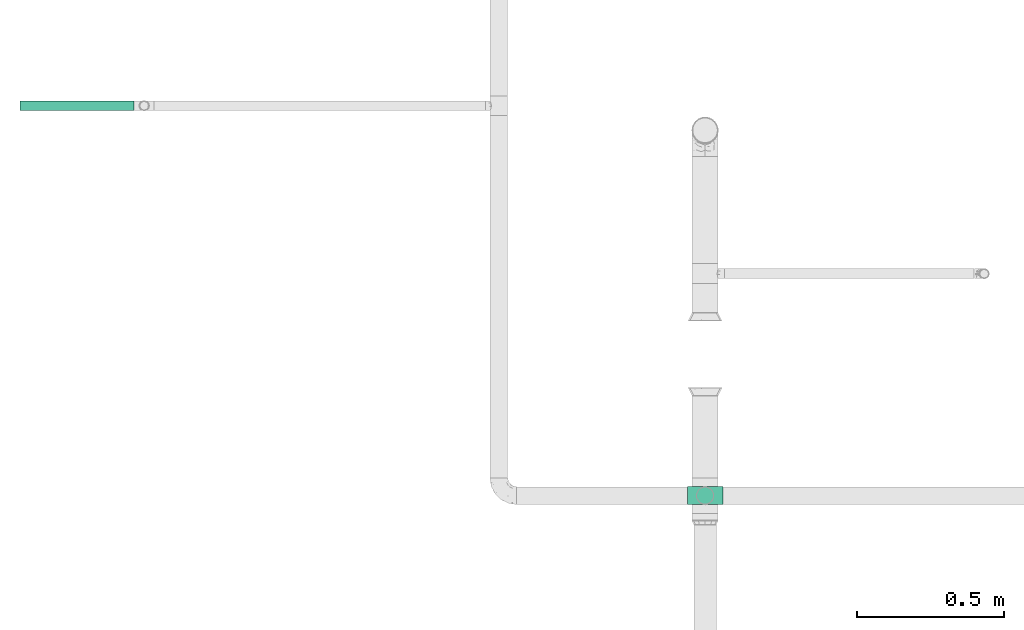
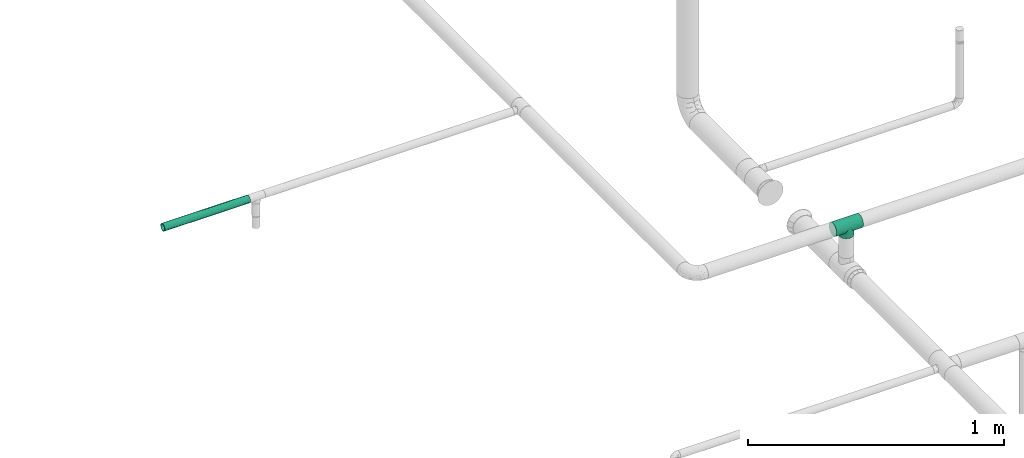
# One storey, part 40 of 45: 1 flow fitting, 1 flow segment.
"""IFC2X3 building model written with IfcOpenShell, lengths in millimetres."""

from ifc_helpers import new_model, entity, si_unit, converted_unit, derived_unit, direction, frame, origin_with_axes, place, context, subcontext, project, spatial, open_shell, faceted_brep, surface_model, source, transform, mapped, type_object, element, save


model = new_model("IFC2X3")

# Units and contexts
model_context = context("Model", 3, precision=0.01, world=frame((0.0, 4.29681676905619e-09, 0.0)), true_north=direction((4.01073788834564e-13, 1.0)))
plan_context = context("Plan", 3, precision=0.01, world=frame((0.0, 4.29681676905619e-09, 0.0)), true_north=direction((4.01073788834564e-13, 1.0)))
body_context = subcontext(model_context, "Body", "Model", "MODEL_VIEW")
ifc_project = project(units=[converted_unit("PLANEANGLEUNIT", "DEGREE", entity("IfcPositiveLengthMeasure", 0.0174532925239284), si_unit("PLANEANGLEUNIT", "RADIAN"), dimensions=[0, 0, 0, 0, 0, 0, 0]), si_unit("AREAUNIT", "SQUARE_METRE"), si_unit("LENGTHUNIT", "METRE", prefix="MILLI"), si_unit("MASSUNIT", "GRAM", prefix="KILO"), si_unit("POWERUNIT", "WATT"), si_unit("PRESSUREUNIT", "PASCAL", prefix="KILO"), si_unit("FORCEUNIT", "NEWTON", prefix="KILO"), si_unit("ELECTRICVOLTAGEUNIT", "VOLT"), si_unit("ELECTRICCURRENTUNIT", "AMPERE"), si_unit("THERMODYNAMICTEMPERATUREUNIT", "DEGREE_CELSIUS"), si_unit("TIMEUNIT", "SECOND"), si_unit("VOLUMEUNIT", "CUBIC_METRE"), derived_unit("LINEARVELOCITYUNIT", [(si_unit("LENGTHUNIT", "METRE"), 1), (si_unit("TIMEUNIT", "SECOND"), -1)]), derived_unit("VOLUMETRICFLOWRATEUNIT", [(si_unit("VOLUMEUNIT", "CUBIC_METRE"), 1), (si_unit("TIMEUNIT", "SECOND"), -1)]), derived_unit("THERMALTRANSMITTANCEUNIT", [(si_unit("POWERUNIT", "WATT"), 1), (si_unit("THERMODYNAMICTEMPERATUREUNIT", "KELVIN"), -1), (si_unit("AREAUNIT", "SQUARE_METRE"), -1)]), derived_unit("SOUNDPRESSUREUNIT", [(si_unit("PRESSUREUNIT", "PASCAL"), 1)])], contexts=[model_context, plan_context])

# Site, building, storey
site_placement = place(None, frame((0.0, -4.29681676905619e-09, 0.0), z_axis=(0.0, 0.0, 1.0), x_axis=(1.0, 0.0, 0.0)))
site = spatial("IfcSite", under=ifc_project, at=site_placement, CompositionType="ELEMENT")
building_placement = place(site_placement, frame((0.0, 4.29681676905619e-09, 0.0), z_axis=(0.0, 0.0, 1.0), x_axis=(1.0, 0.0, 0.0)))
building = spatial("IfcBuilding", under=site, at=building_placement, Name="mc-building", CompositionType="ELEMENT")
storey_placement = place(building_placement, frame((0.0, 0.0, 210200.0), z_axis=(0.0, 0.0, 1.0), x_axis=(1.0, 0.0, 0.0)))
storey = spatial("IfcBuildingStorey", under=building, at=storey_placement, Name="Nivå F - 0,7 m", CompositionType="ELEMENT", Elevation=210200.0)

# Flow fitting
pipe_fitting_type = type_object("IfcPipeFittingType", Name="magi_pipe_fe_tee_centric_90_001", PredefinedType="JUNCTION")
shared_shape = source(origin_with_axes(), body_context, "Body", "SurfaceModel", [
    surface_model("IfcShellBasedSurfaceModel", [(-60.4, 15.1, -26.15397), (-60.4, 7.81634, -29.17096), (-60.4, 0.0, -30.2), (-60.4, 29.17096, -7.81634), (-60.4, 26.15397, -15.1), (-60.4, 21.35462, -21.35462), (-60.4, -15.1, -26.15397), (-60.4, -21.35462, -21.35462), (-60.4, -7.81634, -29.17096), (-60.4, -26.15397, -15.1), (-60.4, -29.17096, -7.81634), (-60.4, 30.2, 0.0), (-60.4, -30.2, 0.0), (-60.4, 26.15397, 15.1), (-60.4, 29.17096, 7.81634), (-60.4, 15.1, 26.15397), (-60.4, -21.35462, 21.35462), (-60.4, 21.35462, 21.35462), (-60.4, 7.81634, 29.17096), (-60.4, -29.17096, 7.81634), (-60.4, -26.15397, 15.1), (-60.4, -15.1, 26.15397), (-60.4, -7.81634, 29.17096), (-60.4, 0.0, 30.2), (60.4, 0.0, -30.2), (60.4, 7.81634, -29.17096), (60.4, 15.1, -26.15397), (60.4, 21.35462, -21.35462), (60.4, -7.81634, -29.17096), (60.4, 26.15397, -15.1), (60.4, 29.17096, -7.81634), (60.4, -21.35462, -21.35462), (60.4, -15.1, -26.15397), (60.4, -29.17096, -7.81634), (60.4, -26.15397, -15.1), (60.4, -30.2, 0.0), (60.4, 30.2, 0.0), (60.4, 29.17096, 7.81634), (60.4, 26.15397, 15.1), (60.4, -29.17096, 7.81634), (60.4, 15.1, 26.15397), (60.4, 7.81634, 29.17096), (60.4, 21.35462, 21.35462), (60.4, -21.35462, 21.35462), (60.4, -26.15397, 15.1), (60.4, -15.1, 26.15397), (60.4, 0.0, 30.2), (60.4, -7.81634, 29.17096), (29.10446, -29.10446, 8.06041), (30.2, -30.2, 0.0), (26.13799, -26.13799, 15.12764), (16.92575, -16.92575, 25.01118), (21.91401, -21.91401, 20.78019), (-30.2, -30.2, 0.0), (-29.10446, -29.10446, 8.06041), (-26.13799, -26.13799, 15.12764), (-21.91401, -21.91401, 20.78019), (-16.92575, -16.92575, 25.01118), (-11.48736, -11.48736, 27.92992), (11.48736, -11.48736, 27.92992), (5.79898, -5.79898, 29.63801), (0.0, 0.0, 30.2), (-5.79898, -5.79898, 29.63801), (5.79898, -5.79898, -29.63801), (0.0, 0.0, -30.2), (-5.79898, -5.79898, -29.63801), (-11.48736, -11.48736, -27.92992), (11.48736, -11.48736, -27.92992), (16.92575, -16.92575, -25.01118), (21.91401, -21.91401, -20.78019), (26.13799, -26.13799, -15.12764), (29.10446, -29.10446, -8.06041), (-16.92575, -16.92575, -25.01118), (-21.91401, -21.91401, -20.78019), (-29.10446, -29.10446, -8.06041), (-26.13799, -26.13799, -15.12764), (-21.35462, -45.3, -21.35462), (0.0, -45.3, -30.2), (7.81634, -45.3, -29.17096), (15.1, -45.3, -26.15397), (-30.2, -45.3, 0.0), (26.15397, -45.3, -15.1), (21.35462, -45.3, -21.35462), (26.15397, -45.3, 15.1), (-7.81634, -45.3, -29.17096), (-15.1, -45.3, -26.15397), (-29.17096, -45.3, -7.81634), (-26.15397, -45.3, -15.1), (29.17096, -45.3, -7.81634), (30.2, -45.3, 0.0), (29.17096, -45.3, 7.81634), (7.81634, -45.3, 29.17096), (15.1, -45.3, 26.15397), (21.35462, -45.3, 21.35462), (-21.35462, -45.3, 21.35462), (-26.15397, -45.3, 15.1), (-29.17096, -45.3, 7.81634), (-15.1, -45.3, 26.15397), (0.0, -45.3, 30.2), (-7.81634, -45.3, 29.17096)], [open_shell([[[0, 1, 2]], [[0, 3, 4]], [[5, 0, 4]], [[6, 7, 8]], [[7, 2, 8]], [[9, 10, 7]], [[3, 0, 2]], [[11, 2, 12]], [[12, 7, 10]], [[7, 12, 2]], [[11, 3, 2]], [[13, 14, 11]], [[12, 15, 13]], [[12, 16, 15]], [[17, 13, 15]], [[18, 15, 16]], [[19, 20, 12]], [[12, 20, 16]], [[21, 22, 16]], [[23, 16, 22]], [[16, 23, 18]], [[12, 13, 11]], [[24, 25, 26]], [[24, 26, 27]], [[28, 27, 29]], [[27, 28, 24]], [[28, 29, 30]], [[28, 31, 32]], [[31, 28, 33]], [[31, 33, 34]], [[33, 28, 35]], [[28, 30, 35]], [[30, 36, 35]], [[36, 37, 38]], [[39, 36, 38]], [[40, 41, 38]], [[40, 38, 42]], [[43, 38, 41]], [[39, 43, 44]], [[39, 38, 43]], [[45, 46, 47]], [[46, 45, 43]], [[41, 46, 43]], [[36, 39, 35]], [[39, 44, 48]], [[35, 39, 49]], [[49, 39, 48]], [[44, 50, 48]], [[43, 45, 51]], [[50, 44, 52]], [[51, 52, 43]], [[52, 44, 43]], [[53, 54, 19]], [[53, 19, 12]], [[19, 54, 20]], [[54, 55, 20]], [[56, 57, 16]], [[16, 20, 56]], [[16, 57, 21]], [[56, 20, 55]], [[21, 57, 58]], [[51, 45, 59]], [[60, 46, 61]], [[59, 47, 60]], [[47, 59, 45]], [[60, 47, 46]], [[61, 46, 41]], [[38, 37, 14]], [[17, 40, 42]], [[13, 42, 38]], [[41, 40, 15]], [[11, 37, 36]], [[62, 61, 23]], [[62, 22, 58]], [[22, 62, 23]], [[58, 22, 21]], [[61, 18, 23]], [[41, 18, 61]], [[15, 18, 41]], [[15, 40, 17]], [[13, 17, 42]], [[14, 13, 38]], [[37, 11, 14]], [[27, 5, 29]], [[30, 3, 36]], [[30, 29, 4]], [[0, 27, 26]], [[24, 28, 63]], [[24, 64, 25]], [[64, 24, 63]], [[26, 25, 1]], [[64, 1, 25]], [[3, 30, 4]], [[29, 5, 4]], [[5, 27, 0]], [[36, 3, 11]], [[65, 66, 8]], [[2, 1, 64]], [[2, 65, 8]], [[66, 6, 8]], [[1, 0, 26]], [[2, 64, 65]], [[63, 28, 67]], [[32, 31, 68]], [[69, 68, 31]], [[34, 70, 69]], [[69, 31, 34]], [[32, 68, 67]], [[33, 35, 49]], [[33, 71, 34]], [[71, 33, 49]], [[34, 71, 70]], [[72, 6, 66]], [[72, 7, 6]], [[7, 72, 73]], [[7, 73, 9]], [[74, 53, 10]], [[75, 74, 9]], [[74, 10, 9]], [[10, 53, 12]], [[75, 9, 73]], [[32, 67, 28]], [[76, 77, 78]], [[79, 76, 78]], [[80, 79, 81]], [[81, 79, 82]], [[83, 80, 81]], [[84, 76, 85]], [[84, 77, 76]], [[76, 86, 87]], [[86, 76, 80]], [[79, 80, 76]], [[81, 88, 89]], [[89, 90, 83]], [[91, 80, 83]], [[92, 91, 83]], [[92, 83, 93]], [[80, 91, 94]], [[80, 95, 96]], [[94, 95, 80]], [[97, 98, 99]], [[98, 97, 94]], [[91, 98, 94]], [[83, 81, 89]], [[80, 96, 53]], [[54, 53, 96]], [[94, 97, 57]], [[56, 95, 94]], [[54, 96, 95]], [[58, 97, 99]], [[55, 54, 95]], [[56, 55, 95]], [[58, 57, 97]], [[98, 61, 62]], [[58, 99, 62]], [[56, 94, 57]], [[62, 99, 98]], [[60, 98, 91]], [[92, 59, 91]], [[83, 90, 48]], [[52, 93, 83]], [[51, 92, 93]], [[49, 90, 89]], [[59, 60, 91]], [[51, 59, 92]], [[49, 48, 90]], [[50, 52, 83]], [[48, 50, 83]], [[51, 93, 52]], [[98, 60, 61]], [[89, 88, 49]], [[71, 49, 88]], [[69, 81, 82]], [[68, 82, 79]], [[88, 81, 71]], [[67, 79, 78]], [[70, 71, 81]], [[69, 70, 81]], [[67, 68, 79]], [[77, 64, 63]], [[67, 78, 63]], [[69, 82, 68]], [[63, 78, 77]], [[65, 77, 84]], [[85, 66, 84]], [[87, 86, 74]], [[73, 76, 87]], [[72, 85, 76]], [[53, 86, 80]], [[66, 65, 84]], [[72, 66, 85]], [[53, 74, 86]], [[75, 73, 87]], [[74, 75, 87]], [[72, 76, 73]], [[77, 65, 64]]])]),
])
flow_fitting_placement = place(storey_placement, frame((324119.17326, 462400.28184, 3145.0), z_axis=(0.0, 1.0, 0.0), x_axis=(-1.0, 0.0, 0.0)))
element("IfcFlowFitting", 1, at=flow_fitting_placement, inside=storey, type_object=pipe_fitting_type, Name="magi_pipe_fe_tee_centric_90_001", context=body_context, shape_type="MappedRepresentation", body=[
    mapped(shared_shape, transform((0.0, 0.0, 0.0), scale=1.0)),
])

# Flow segment
pipe_segment_type = type_object("IfcPipeSegmentType", Name="Stålrør normaltykke", PredefinedType="RIGIDSEGMENT")
flow_segment_placement = place(storey_placement, frame((322182.07674, 463723.25463, 3145.0), z_axis=(0.0, 0.0, 1.0), x_axis=(-1.0, 0.0, 0.0)))
element("IfcFlowSegment", 2, at=flow_segment_placement, inside=storey, type_object=pipe_segment_type, Name="Stålrør normaltykke", context=body_context, shape_type="Brep", body=[
    faceted_brep([(387.326739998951, 14.9, 0.0), (387.326739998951, 14.6736355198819, -2.58735784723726), (0.0, 14.6736355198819, -2.58735784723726), (0.0, 14.9, 0.0), (387.326739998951, 14.00142004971, -5.09610013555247), (0.0, 14.00142004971, -5.09610013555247), (387.326739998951, 12.9037785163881, -7.45000000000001), (0.0, 12.9037785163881, -7.45000000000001), (387.326739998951, 11.4140622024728, -9.57753538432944), (0.0, 11.4140622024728, -9.57753538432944), (387.326739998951, 9.57753538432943, -11.4140622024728), (0.0, 9.57753538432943, -11.4140622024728), (387.326739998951, 7.45, -12.9037785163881), (0.0, 7.45, -12.9037785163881), (387.326739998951, 5.09610013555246, -14.00142004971), (0.0, 5.09610013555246, -14.00142004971), (387.326739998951, 2.58735784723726, -14.6736355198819), (0.0, 2.58735784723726, -14.6736355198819), (387.326739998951, -2.73708559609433e-15, -14.9), (0.0, -2.73708559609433e-15, -14.9), (387.326739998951, -2.58735784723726, -14.6736355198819), (0.0, -2.58735784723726, -14.6736355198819), (387.326739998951, -5.09610013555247, -14.00142004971), (0.0, -5.09610013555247, -14.00142004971), (387.326739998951, -7.45000000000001, -12.9037785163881), (0.0, -7.45000000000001, -12.9037785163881), (387.326739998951, -9.57753538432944, -11.4140622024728), (0.0, -9.57753538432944, -11.4140622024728), (387.326739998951, -11.4140622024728, -9.57753538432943), (0.0, -11.4140622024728, -9.57753538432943), (387.326739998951, -12.9037785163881, -7.44999999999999), (0.0, -12.9037785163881, -7.44999999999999), (387.326739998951, -14.00142004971, -5.09610013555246), (0.0, -14.00142004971, -5.09610013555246), (387.326739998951, -14.6736355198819, -2.58735784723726), (0.0, -14.6736355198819, -2.58735784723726), (387.326739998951, -14.9, 1.82472373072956e-15), (0.0, -14.9, 1.82472373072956e-15), (387.326739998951, -14.6736355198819, 2.58735784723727), (0.0, -14.6736355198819, 2.58735784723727), (387.326739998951, -14.00142004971, 5.09610013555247), (0.0, -14.00142004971, 5.09610013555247), (387.326739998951, -12.9037785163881, 7.45), (0.0, -12.9037785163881, 7.45), (387.326739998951, -11.4140622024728, 9.57753538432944), (0.0, -11.4140622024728, 9.57753538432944), (387.326739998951, -9.57753538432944, 11.4140622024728), (0.0, -9.57753538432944, 11.4140622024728), (387.326739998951, -7.45, 12.9037785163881), (0.0, -7.45, 12.9037785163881), (387.326739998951, -5.09610013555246, 14.00142004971), (0.0, -5.09610013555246, 14.00142004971), (387.326739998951, -2.58735784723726, 14.6736355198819), (0.0, -2.58735784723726, 14.6736355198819), (387.326739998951, 9.12361865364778e-16, 14.9), (0.0, 9.12361865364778e-16, 14.9), (387.326739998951, 2.58735784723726, 14.6736355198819), (0.0, 2.58735784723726, 14.6736355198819), (387.326739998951, 5.09610013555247, 14.00142004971), (0.0, 5.09610013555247, 14.00142004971), (387.326739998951, 7.45, 12.9037785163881), (0.0, 7.45, 12.9037785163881), (387.326739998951, 9.57753538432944, 11.4140622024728), (0.0, 9.57753538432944, 11.4140622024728), (387.326739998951, 11.4140622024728, 9.57753538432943), (0.0, 11.4140622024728, 9.57753538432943), (387.326739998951, 12.9037785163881, 7.45), (0.0, 12.9037785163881, 7.45), (387.326739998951, 14.00142004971, 5.09610013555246), (0.0, 14.00142004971, 5.09610013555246), (387.326739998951, 14.6736355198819, 2.58735784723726), (0.0, 14.6736355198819, 2.58735784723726), (387.326739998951, 16.6432510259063, -2.93465420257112), (387.326739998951, 16.9, 0.0), (0.0, 16.9, 0.0), (0.0, 16.6432510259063, -2.93465420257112), (387.326739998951, 16.6432510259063, 2.93465420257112), (0.0, 16.6432510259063, 2.93465420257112), (387.326739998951, 15.8808052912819, 5.7801404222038), (0.0, 15.8808052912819, 5.7801404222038), (387.326739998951, 14.635829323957, 8.45), (0.0, 14.635829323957, 8.45), (387.326739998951, 12.9461510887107, 10.8631106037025), (0.0, 12.9461510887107, 10.8631106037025), (387.326739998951, 10.8631106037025, 12.9461510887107), (0.0, 10.8631106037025, 12.9461510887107), (387.326739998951, 8.45, 14.635829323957), (0.0, 8.45, 14.635829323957), (387.326739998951, 5.7801404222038, 15.8808052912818), (0.0, 5.7801404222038, 15.8808052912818), (387.326739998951, 2.93465420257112, 16.6432510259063), (0.0, 2.93465420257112, 16.6432510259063), (387.326739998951, 1.03482654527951e-15, 16.9), (0.0, 1.03482654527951e-15, 16.9), (387.326739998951, -2.93465420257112, 16.6432510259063), (0.0, -2.93465420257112, 16.6432510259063), (387.326739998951, -5.7801404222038, 15.8808052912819), (0.0, -5.7801404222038, 15.8808052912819), (387.326739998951, -8.45, 14.635829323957), (0.0, -8.45, 14.635829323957), (387.326739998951, -10.8631106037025, 12.9461510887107), (0.0, -10.8631106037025, 12.9461510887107), (387.326739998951, -12.9461510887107, 10.8631106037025), (0.0, -12.9461510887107, 10.8631106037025), (387.326739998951, -14.635829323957, 8.45), (0.0, -14.635829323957, 8.45), (387.326739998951, -15.8808052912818, 5.7801404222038), (0.0, -15.8808052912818, 5.7801404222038), (387.326739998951, -16.6432510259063, 2.93465420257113), (0.0, -16.6432510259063, 2.93465420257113), (387.326739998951, -16.9, 2.06965309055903e-15), (0.0, -16.9, 2.06965309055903e-15), (387.326739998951, -16.6432510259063, -2.93465420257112), (0.0, -16.6432510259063, -2.93465420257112), (387.326739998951, -15.8808052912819, -5.7801404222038), (0.0, -15.8808052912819, -5.7801404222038), (387.326739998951, -14.635829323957, -8.44999999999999), (0.0, -14.635829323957, -8.44999999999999), (387.326739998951, -12.9461510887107, -10.8631106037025), (0.0, -12.9461510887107, -10.8631106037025), (387.326739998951, -10.8631106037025, -12.9461510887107), (0.0, -10.8631106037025, -12.9461510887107), (387.326739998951, -8.45000000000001, -14.635829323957), (0.0, -8.45000000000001, -14.635829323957), (387.326739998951, -5.78014042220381, -15.8808052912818), (0.0, -5.78014042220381, -15.8808052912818), (387.326739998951, -2.93465420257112, -16.6432510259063), (0.0, -2.93465420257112, -16.6432510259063), (387.326739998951, -3.10447963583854e-15, -16.9), (0.0, -3.10447963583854e-15, -16.9), (387.326739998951, 2.93465420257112, -16.6432510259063), (0.0, 2.93465420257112, -16.6432510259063), (387.326739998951, 5.78014042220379, -15.8808052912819), (0.0, 5.78014042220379, -15.8808052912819), (387.326739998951, 8.45, -14.635829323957), (0.0, 8.45, -14.635829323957), (387.326739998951, 10.8631106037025, -12.9461510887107), (0.0, 10.8631106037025, -12.9461510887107), (387.326739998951, 12.9461510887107, -10.8631106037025), (0.0, 12.9461510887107, -10.8631106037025), (387.326739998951, 14.635829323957, -8.45000000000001), (0.0, 14.635829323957, -8.45000000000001), (387.326739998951, 15.8808052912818, -5.78014042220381), (0.0, 15.8808052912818, -5.78014042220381)], [[[0, 1, 2, 3]], [[1, 4, 5, 2]], [[4, 6, 7, 5]], [[6, 8, 9, 7]], [[8, 10, 11, 9]], [[10, 12, 13, 11]], [[12, 14, 15, 13]], [[14, 16, 17, 15]], [[16, 18, 19, 17]], [[18, 20, 21, 19]], [[20, 22, 23, 21]], [[22, 24, 25, 23]], [[24, 26, 27, 25]], [[26, 28, 29, 27]], [[28, 30, 31, 29]], [[30, 32, 33, 31]], [[32, 34, 35, 33]], [[34, 36, 37, 35]], [[36, 38, 39, 37]], [[38, 40, 41, 39]], [[40, 42, 43, 41]], [[42, 44, 45, 43]], [[44, 46, 47, 45]], [[46, 48, 49, 47]], [[48, 50, 51, 49]], [[50, 52, 53, 51]], [[52, 54, 55, 53]], [[54, 56, 57, 55]], [[56, 58, 59, 57]], [[58, 60, 61, 59]], [[60, 62, 63, 61]], [[62, 64, 65, 63]], [[64, 66, 67, 65]], [[66, 68, 69, 67]], [[68, 70, 71, 69]], [[70, 0, 3, 71]], [[72, 73, 74, 75]], [[73, 76, 77, 74]], [[76, 78, 79, 77]], [[78, 80, 81, 79]], [[80, 82, 83, 81]], [[82, 84, 85, 83]], [[84, 86, 87, 85]], [[86, 88, 89, 87]], [[88, 90, 91, 89]], [[90, 92, 93, 91]], [[92, 94, 95, 93]], [[94, 96, 97, 95]], [[96, 98, 99, 97]], [[98, 100, 101, 99]], [[100, 102, 103, 101]], [[102, 104, 105, 103]], [[104, 106, 107, 105]], [[106, 108, 109, 107]], [[108, 110, 111, 109]], [[110, 112, 113, 111]], [[112, 114, 115, 113]], [[114, 116, 117, 115]], [[116, 118, 119, 117]], [[118, 120, 121, 119]], [[120, 122, 123, 121]], [[122, 124, 125, 123]], [[124, 126, 127, 125]], [[126, 128, 129, 127]], [[128, 130, 131, 129]], [[130, 132, 133, 131]], [[132, 134, 135, 133]], [[134, 136, 137, 135]], [[136, 138, 139, 137]], [[138, 140, 141, 139]], [[140, 142, 143, 141]], [[142, 72, 75, 143]], [[75, 74, 77, 79, 81, 83, 85, 87, 89, 91, 93, 95, 97, 99, 101, 103, 105, 107, 109, 111, 113, 115, 117, 119, 121, 123, 125, 127, 129, 131, 133, 135, 137, 139, 141, 143], [3, 2, 5, 7, 9, 11, 13, 15, 17, 19, 21, 23, 25, 27, 29, 31, 33, 35, 37, 39, 41, 43, 45, 47, 49, 51, 53, 55, 57, 59, 61, 63, 65, 67, 69, 71]], [[142, 140, 138, 136, 134, 132, 130, 128, 126, 124, 122, 120, 118, 116, 114, 112, 110, 108, 106, 104, 102, 100, 98, 96, 94, 92, 90, 88, 86, 84, 82, 80, 78, 76, 73, 72], [70, 68, 66, 64, 62, 60, 58, 56, 54, 52, 50, 48, 46, 44, 42, 40, 38, 36, 34, 32, 30, 28, 26, 24, 22, 20, 18, 16, 14, 12, 10, 8, 6, 4, 1, 0]]], orient=[[False], [False], [False], [False], [False], [False], [False], [False], [False], [False], [False], [False], [False], [False], [False], [False], [False], [False], [False], [False], [False], [False], [False], [False], [False], [False], [False], [False], [False], [False], [False], [False], [False], [False], [False], [False], [False], [False], [False], [False], [False], [False], [False], [False], [False], [False], [False], [False], [False], [False], [False], [False], [False], [False], [False], [False], [False], [False], [False], [False], [False], [False], [False], [False], [False], [False], [False], [False], [False], [False], [False], [False], [False, False], [False, False]]),
])

save(model, "model.ifc")
